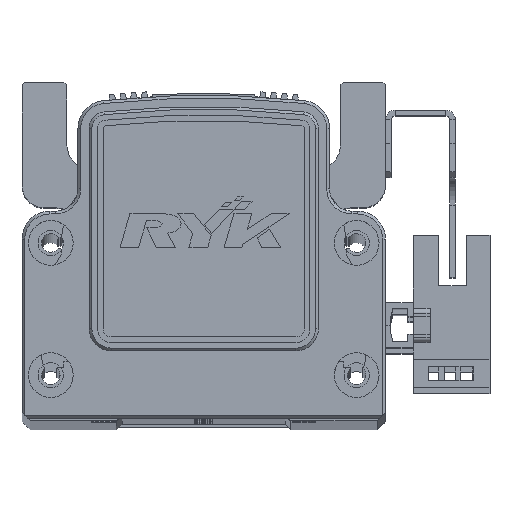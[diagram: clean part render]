
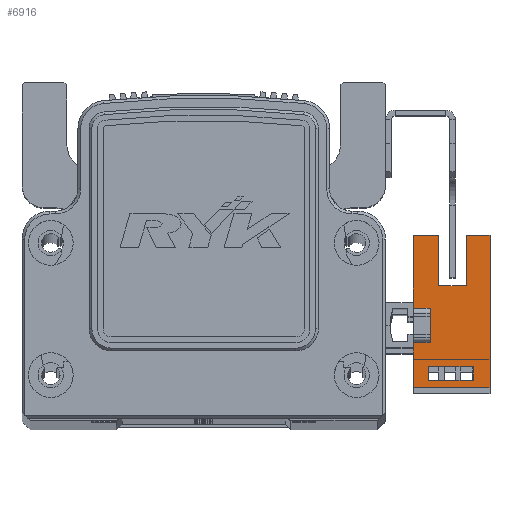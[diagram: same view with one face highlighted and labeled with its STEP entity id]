
A CAD part, top view. The second image highlights one B-rep face of the part: STEP entity #6916.
In plain terms, the highlighted planar face has unit normal (0, 0, 1) as drawn and (1, 0, 0) by its records, which use the part's own axes.
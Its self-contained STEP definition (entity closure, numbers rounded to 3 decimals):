
#4472 = ORIENTED_EDGE ( 'NONE', *, *, #9893, .F. ) ;
#4494 = ORIENTED_EDGE ( 'NONE', *, *, #9699, .T. ) ;
#4495 = ORIENTED_EDGE ( 'NONE', *, *, #9763, .F. ) ;
#4498 = ORIENTED_EDGE ( 'NONE', *, *, #9892, .F. ) ;
#4499 = ORIENTED_EDGE ( 'NONE', *, *, #9704, .F. ) ;
#4502 = ORIENTED_EDGE ( 'NONE', *, *, #9872, .T. ) ;
#4506 = ORIENTED_EDGE ( 'NONE', *, *, #9866, .F. ) ;
#4508 = ORIENTED_EDGE ( 'NONE', *, *, #9873, .F. ) ;
#4513 = ORIENTED_EDGE ( 'NONE', *, *, #9751, .F. ) ;
#4515 = ORIENTED_EDGE ( 'NONE', *, *, #9796, .T. ) ;
#4519 = ORIENTED_EDGE ( 'NONE', *, *, #9722, .T. ) ;
#4520 = ORIENTED_EDGE ( 'NONE', *, *, #9753, .T. ) ;
#4521 = ORIENTED_EDGE ( 'NONE', *, *, #9671, .F. ) ;
#4524 = ORIENTED_EDGE ( 'NONE', *, *, #9851, .F. ) ;
#4526 = ORIENTED_EDGE ( 'NONE', *, *, #9798, .F. ) ;
#4529 = ORIENTED_EDGE ( 'NONE', *, *, #9721, .T. ) ;
#6916 = ADVANCED_FACE ( 'NONE', ( #8636, #8637 ), #28215, .T. ) ;
#8636 = FACE_OUTER_BOUND ( 'NONE', #39001, .T. ) ;
#8637 = FACE_BOUND ( 'NONE', #38977, .T. ) ;
#9671 = EDGE_CURVE ( 'NONE', #40741, #41060, #35022, .T. ) ;
#9699 = EDGE_CURVE ( 'NONE', #40898, #41013, #34994, .T. ) ;
#9704 = EDGE_CURVE ( 'NONE', #40748, #40762, #34991, .T. ) ;
#9721 = EDGE_CURVE ( 'NONE', #41013, #40902, #34981, .T. ) ;
#9722 = EDGE_CURVE ( 'NONE', #40972, #40762, #34983, .T. ) ;
#9751 = EDGE_CURVE ( 'NONE', #41060, #41047, #35087, .T. ) ;
#9753 = EDGE_CURVE ( 'NONE', #40902, #40972, #35106, .T. ) ;
#9763 = EDGE_CURVE ( 'NONE', #41047, #40748, #35086, .T. ) ;
#9796 = EDGE_CURVE ( 'NONE', #40795, #40898, #35044, .T. ) ;
#9798 = EDGE_CURVE ( 'NONE', #40873, #40741, #35062, .T. ) ;
#9851 = EDGE_CURVE ( 'NONE', #41028, #40873, #35145, .T. ) ;
#9866 = EDGE_CURVE ( 'NONE', #41069, #40948, #35208, .T. ) ;
#9872 = EDGE_CURVE ( 'NONE', #41028, #40795, #35179, .T. ) ;
#9873 = EDGE_CURVE ( 'NONE', #40882, #41069, #35240, .T. ) ;
#9892 = EDGE_CURVE ( 'NONE', #40860, #40882, #35333, .T. ) ;
#9893 = EDGE_CURVE ( 'NONE', #40948, #40860, #35260, .T. ) ;
#19551 = DIRECTION ( 'NONE',  ( 0., 0., 1. ) ) ;
#19582 = CARTESIAN_POINT ( 'NONE',  ( 3.2, -11.1, 3. ) ) ;
#19586 = CARTESIAN_POINT ( 'NONE',  ( 3.2, 16.1, 0.3 ) ) ;
#19588 = CARTESIAN_POINT ( 'NONE',  ( 3.2, 16.1, -10.7 ) ) ;
#19594 = DIRECTION ( 'NONE',  ( 0., -1., 0. ) ) ;
#19654 = DIRECTION ( 'NONE',  ( 0., 1., 0. ) ) ;
#19669 = DIRECTION ( 'NONE',  ( 0., 0., 1. ) ) ;
#19699 = CARTESIAN_POINT ( 'NONE',  ( 3.2, -7.33, -10.7 ) ) ;
#19726 = DIRECTION ( 'NONE',  ( 0., 0., -1. ) ) ;
#19736 = DIRECTION ( 'NONE',  ( 0., 1., 0. ) ) ;
#19776 = CARTESIAN_POINT ( 'NONE',  ( 3.2, -9.83, -10.7 ) ) ;
#19791 = CARTESIAN_POINT ( 'NONE',  ( 3.2, 16.1, -7.7 ) ) ;
#27684 = AXIS2_PLACEMENT_3D ( 'NONE', #28220, #28179, #28180 ) ;
#28179 = DIRECTION ( 'NONE',  ( 1., 0., 0. ) ) ;
#28180 = DIRECTION ( 'NONE',  ( 0., 1., 0. ) ) ;
#28215 = PLANE ( 'NONE',  #27684 ) ;
#28220 = CARTESIAN_POINT ( 'NONE',  ( 3.2, 16.1, -10.7 ) ) ;
#34981 = LINE ( 'NONE', #39676, #34997 ) ;
#34983 = LINE ( 'NONE', #39697, #34985 ) ;
#34985 = VECTOR ( 'NONE', #39683, 1000. ) ;
#34991 = LINE ( 'NONE', #39646, #35031 ) ;
#34994 = LINE ( 'NONE', #39637, #35012 ) ;
#34997 = VECTOR ( 'NONE', #39692, 1000. ) ;
#35001 = VECTOR ( 'NONE', #39606, 1000. ) ;
#35012 = VECTOR ( 'NONE', #39654, 1000. ) ;
#35022 = LINE ( 'NONE', #39616, #35001 ) ;
#35031 = VECTOR ( 'NONE', #39662, 1000. ) ;
#35044 = LINE ( 'NONE', #39733, #35074 ) ;
#35059 = VECTOR ( 'NONE', #39664, 1000. ) ;
#35062 = LINE ( 'NONE', #39736, #35089 ) ;
#35074 = VECTOR ( 'NONE', #39737, 1000. ) ;
#35081 = VECTOR ( 'NONE', #39716, 1000. ) ;
#35086 = LINE ( 'NONE', #39702, #35081 ) ;
#35087 = LINE ( 'NONE', #39675, #35100 ) ;
#35089 = VECTOR ( 'NONE', #39756, 1000. ) ;
#35100 = VECTOR ( 'NONE', #39693, 1000. ) ;
#35106 = LINE ( 'NONE', #39668, #35059 ) ;
#35145 = LINE ( 'NONE', #19582, #35146 ) ;
#35146 = VECTOR ( 'NONE', #19551, 1000. ) ;
#35179 = LINE ( 'NONE', #19588, #35234 ) ;
#35204 = VECTOR ( 'NONE', #19669, 1000. ) ;
#35208 = LINE ( 'NONE', #19586, #35239 ) ;
#35234 = VECTOR ( 'NONE', #19654, 1000. ) ;
#35239 = VECTOR ( 'NONE', #19594, 1000. ) ;
#35240 = LINE ( 'NONE', #19699, #35204 ) ;
#35260 = LINE ( 'NONE', #19776, #35267 ) ;
#35267 = VECTOR ( 'NONE', #19726, 1000. ) ;
#35289 = VECTOR ( 'NONE', #19736, 1000. ) ;
#35333 = LINE ( 'NONE', #19791, #35289 ) ;
#37513 = CARTESIAN_POINT ( 'NONE',  ( 3.2, 16.1, 3. ) ) ;
#37514 = CARTESIAN_POINT ( 'NONE',  ( 3.2, 3.1, 3. ) ) ;
#37518 = CARTESIAN_POINT ( 'NONE',  ( 3.2, -3.1, 3. ) ) ;
#37545 = CARTESIAN_POINT ( 'NONE',  ( 3.2, 16.1, -10.7 ) ) ;
#37565 = CARTESIAN_POINT ( 'NONE',  ( 3.2, 16.1, -6.5 ) ) ;
#37569 = CARTESIAN_POINT ( 'NONE',  ( 3.2, -11.1, 3. ) ) ;
#37584 = CARTESIAN_POINT ( 'NONE',  ( 3.2, -7.33, -7.7 ) ) ;
#37591 = CARTESIAN_POINT ( 'NONE',  ( 3.2, -9.83, -7.7 ) ) ;
#37612 = CARTESIAN_POINT ( 'NONE',  ( 3.2, 7.1, -1.5 ) ) ;
#37637 = CARTESIAN_POINT ( 'NONE',  ( 3.2, 7.1, -6.5 ) ) ;
#37641 = CARTESIAN_POINT ( 'NONE',  ( 3.2, 3.1, 0. ) ) ;
#37659 = CARTESIAN_POINT ( 'NONE',  ( 3.2, 16.1, -1.5 ) ) ;
#37674 = CARTESIAN_POINT ( 'NONE',  ( 3.2, -11.1, -10.7 ) ) ;
#37680 = CARTESIAN_POINT ( 'NONE',  ( 3.2, -9.83, 0.3 ) ) ;
#37687 = CARTESIAN_POINT ( 'NONE',  ( 3.2, -7.33, 0.3 ) ) ;
#37717 = CARTESIAN_POINT ( 'NONE',  ( 3.2, -3.1, 0. ) ) ;
#38977 = EDGE_LOOP ( 'NONE', ( #4506, #4508, #4498, #4472 ) ) ;
#39001 = EDGE_LOOP ( 'NONE', ( #4494, #4529, #4520, #4519, #4499, #4495, #4513, #4521, #4526, #4524, #4502, #4515 ) ) ;
#39606 = DIRECTION ( 'NONE',  ( 0., 0., -1. ) ) ;
#39616 = CARTESIAN_POINT ( 'NONE',  ( 3.2, -3.1, 3. ) ) ;
#39637 = CARTESIAN_POINT ( 'NONE',  ( 3.2, 25.1, -6.5 ) ) ;
#39646 = CARTESIAN_POINT ( 'NONE',  ( 3.2, 16.1, 3. ) ) ;
#39654 = DIRECTION ( 'NONE',  ( 0., -1., 0. ) ) ;
#39662 = DIRECTION ( 'NONE',  ( 0., 1., 0. ) ) ;
#39664 = DIRECTION ( 'NONE',  ( 0., 1., 0. ) ) ;
#39668 = CARTESIAN_POINT ( 'NONE',  ( 3.2, 25.1, -1.5 ) ) ;
#39675 = CARTESIAN_POINT ( 'NONE',  ( 3.2, 0., 0. ) ) ;
#39676 = CARTESIAN_POINT ( 'NONE',  ( 3.2, 7.1, -6.5 ) ) ;
#39683 = DIRECTION ( 'NONE',  ( 0., 0., 1. ) ) ;
#39692 = DIRECTION ( 'NONE',  ( 0., 0., 1. ) ) ;
#39693 = DIRECTION ( 'NONE',  ( 0., 1., 0. ) ) ;
#39697 = CARTESIAN_POINT ( 'NONE',  ( 3.2, 16.1, -10.7 ) ) ;
#39702 = CARTESIAN_POINT ( 'NONE',  ( 3.2, 3.1, 3. ) ) ;
#39716 = DIRECTION ( 'NONE',  ( 0., 0., 1. ) ) ;
#39733 = CARTESIAN_POINT ( 'NONE',  ( 3.2, 16.1, -10.7 ) ) ;
#39736 = CARTESIAN_POINT ( 'NONE',  ( 3.2, 16.1, 3. ) ) ;
#39737 = DIRECTION ( 'NONE',  ( 0., 0., 1. ) ) ;
#39756 = DIRECTION ( 'NONE',  ( 0., 1., 0. ) ) ;
#40741 = VERTEX_POINT ( 'NONE', #37518 ) ;
#40748 = VERTEX_POINT ( 'NONE', #37514 ) ;
#40762 = VERTEX_POINT ( 'NONE', #37513 ) ;
#40795 = VERTEX_POINT ( 'NONE', #37545 ) ;
#40860 = VERTEX_POINT ( 'NONE', #37591 ) ;
#40873 = VERTEX_POINT ( 'NONE', #37569 ) ;
#40882 = VERTEX_POINT ( 'NONE', #37584 ) ;
#40898 = VERTEX_POINT ( 'NONE', #37565 ) ;
#40902 = VERTEX_POINT ( 'NONE', #37612 ) ;
#40948 = VERTEX_POINT ( 'NONE', #37680 ) ;
#40972 = VERTEX_POINT ( 'NONE', #37659 ) ;
#41013 = VERTEX_POINT ( 'NONE', #37637 ) ;
#41028 = VERTEX_POINT ( 'NONE', #37674 ) ;
#41047 = VERTEX_POINT ( 'NONE', #37641 ) ;
#41060 = VERTEX_POINT ( 'NONE', #37717 ) ;
#41069 = VERTEX_POINT ( 'NONE', #37687 ) ;
